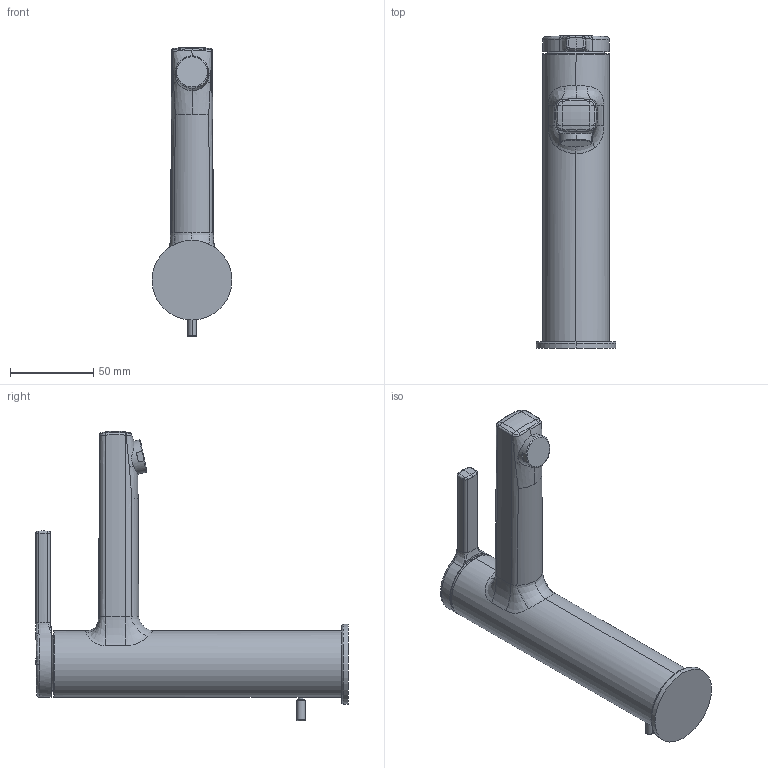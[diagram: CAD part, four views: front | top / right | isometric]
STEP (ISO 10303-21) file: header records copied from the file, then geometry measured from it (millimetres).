
FILE_DESCRIPTION((''),'2;1');
FILE_NAME('509503_A125','2020-07-28T14:38:40',('DB991'),(''),'CREO PARAMETRIC BY PTC INC, 2018500','CREO PARAMETRIC BY PTC INC, 2018500','');
FILE_SCHEMA(('CONFIG_CONTROL_DESIGN'));
Length unit declared in the file: millimetre
Products named in the file (1): 509503_A125
Bounding box: 48 x 187.85 x 173.92 mm (x, y, z)
Volume: 308164 mm3; surface area: 41552.9 mm2
Topology: 1 solids, 1 shells, 170 faces, 414 edges, 248 vertices
Faces by surface type: bspline 66, plane 42, cylinder 38, torus 18, sphere 4, cone 2
Entity records: 19449 total; most frequent: CARTESIAN_POINT 15938, ORIENTED_EDGE 818, DIRECTION 587, EDGE_CURVE 409, VERTEX_POINT 248, AXIS2_PLACEMENT_3D 239, EDGE_LOOP 177, FACE_OUTER_BOUND 170
